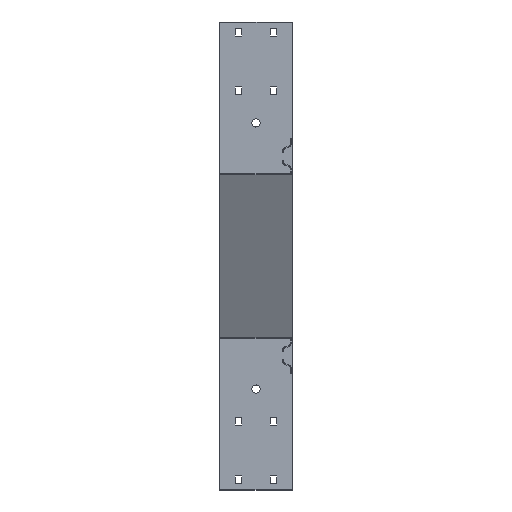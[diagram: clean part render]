
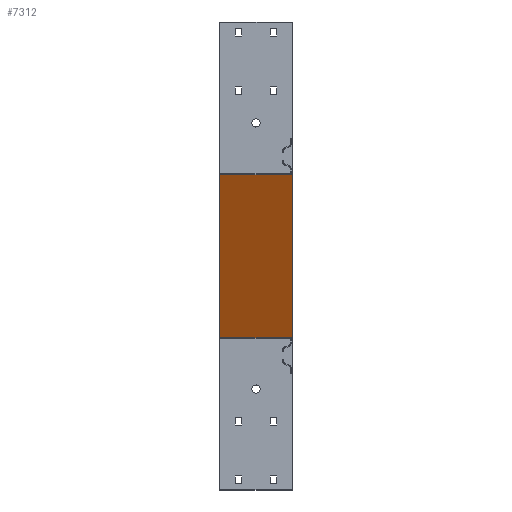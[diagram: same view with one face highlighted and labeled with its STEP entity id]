
A CAD part, left-side view. The second image highlights one B-rep face of the part: STEP entity #7312.
In plain terms, the highlighted planar face has unit normal (-0.881, 0, -0.472) as drawn and (0.881, 0, -0.472) by its records, which use the part's own axes.
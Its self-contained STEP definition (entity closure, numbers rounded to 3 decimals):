
#2 = LINE ( 'NONE', #7726, #2239 ) ;
#192 = CARTESIAN_POINT ( 'NONE',  ( 451.585, 0., -1.276 ) ) ;
#1138 = DIRECTION ( 'NONE',  ( 0., 1., 0. ) ) ;
#1319 = DIRECTION ( 'NONE',  ( -0.472, 0., -0.881 ) ) ;
#1424 = EDGE_CURVE ( 'NONE', #4922, #10717, #2, .T. ) ;
#1526 = CARTESIAN_POINT ( 'NONE',  ( 451.763, 124., -0.944 ) ) ;
#2201 = CARTESIAN_POINT ( 'NONE',  ( 451.763, 124., -0.944 ) ) ;
#2239 = VECTOR ( 'NONE', #1138, 1000. ) ;
#3056 = VERTEX_POINT ( 'NONE', #8975 ) ;
#3325 = EDGE_LOOP ( 'NONE', ( #7921, #6379, #9886, #10131 ) ) ;
#3811 = DIRECTION ( 'NONE',  ( 0., 1., 0. ) ) ;
#3898 = CARTESIAN_POINT ( 'NONE',  ( 451.585, 124., -1.276 ) ) ;
#4438 = DIRECTION ( 'NONE',  ( 0.472, 0., 0.881 ) ) ;
#4881 = VERTEX_POINT ( 'NONE', #3898 ) ;
#4922 = VERTEX_POINT ( 'NONE', #7867 ) ;
#6236 = CARTESIAN_POINT ( 'NONE',  ( 451.763, 0., -0.944 ) ) ;
#6379 = ORIENTED_EDGE ( 'NONE', *, *, #1424, .T. ) ;
#6521 = VECTOR ( 'NONE', #1319, 1000. ) ;
#6974 = VECTOR ( 'NONE', #9952, 1000. ) ;
#7120 = AXIS2_PLACEMENT_3D ( 'NONE', #1526, #9239, #4438 ) ;
#7237 = LINE ( 'NONE', #6236, #6974 ) ;
#7312 = ADVANCED_FACE ( 'NONE', ( #11333 ), #10128, .F. ) ;
#7514 = EDGE_CURVE ( 'NONE', #4881, #10717, #9856, .T. ) ;
#7726 = CARTESIAN_POINT ( 'NONE',  ( 302.178, 0., -280.17 ) ) ;
#7867 = CARTESIAN_POINT ( 'NONE',  ( 302.178, 0., -280.17 ) ) ;
#7921 = ORIENTED_EDGE ( 'NONE', *, *, #7990, .T. ) ;
#7990 = EDGE_CURVE ( 'NONE', #3056, #4922, #7237, .T. ) ;
#8258 = CARTESIAN_POINT ( 'NONE',  ( 302.178, 124., -280.17 ) ) ;
#8975 = CARTESIAN_POINT ( 'NONE',  ( 451.585, 0., -1.276 ) ) ;
#9239 = DIRECTION ( 'NONE',  ( -0.881, 0., 0.472 ) ) ;
#9856 = LINE ( 'NONE', #2201, #6521 ) ;
#9886 = ORIENTED_EDGE ( 'NONE', *, *, #7514, .F. ) ;
#9952 = DIRECTION ( 'NONE',  ( -0.472, 0., -0.881 ) ) ;
#10128 = PLANE ( 'NONE',  #7120 ) ;
#10131 = ORIENTED_EDGE ( 'NONE', *, *, #10835, .F. ) ;
#10717 = VERTEX_POINT ( 'NONE', #8258 ) ;
#10758 = LINE ( 'NONE', #192, #11762 ) ;
#10835 = EDGE_CURVE ( 'NONE', #3056, #4881, #10758, .T. ) ;
#11333 = FACE_OUTER_BOUND ( 'NONE', #3325, .T. ) ;
#11762 = VECTOR ( 'NONE', #3811, 1000. ) ;
